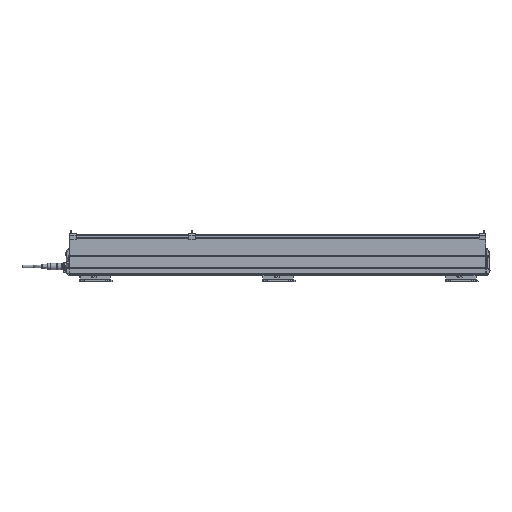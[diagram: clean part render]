
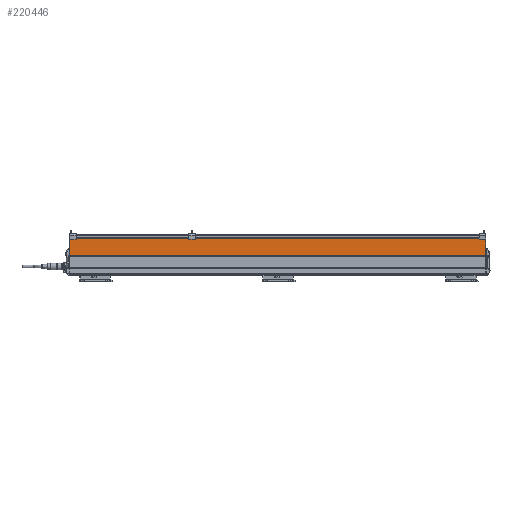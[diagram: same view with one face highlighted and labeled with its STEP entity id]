
A CAD part, front view. The second image highlights one B-rep face of the part: STEP entity #220446.
In plain terms, the highlighted planar face has unit normal (0, -1, 0) as drawn and (0, 1, 0) by its records, which use the part's own axes.
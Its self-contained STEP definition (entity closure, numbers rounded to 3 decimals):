
#75737=ORIENTED_EDGE('',*,*,#107795,.F.);
#75738=ORIENTED_EDGE('',*,*,#107760,.F.);
#75739=ORIENTED_EDGE('',*,*,#107794,.F.);
#75740=ORIENTED_EDGE('',*,*,#107699,.F.);
#92473=VECTOR('',#124377,1.);
#92500=VECTOR('',#124478,1.);
#92530=VECTOR('',#124572,1.);
#92531=VECTOR('',#124575,1.);
#97310=LINE('',#141753,#92473);
#97337=LINE('',#141876,#92500);
#97367=LINE('',#141942,#92530);
#97368=LINE('',#141944,#92531);
#102158=VERTEX_POINT('',#141750);
#102159=VERTEX_POINT('',#141752);
#102217=VERTEX_POINT('',#141873);
#102218=VERTEX_POINT('',#141875);
#107699=EDGE_CURVE('',#102158,#102159,#97310,.T.);
#107760=EDGE_CURVE('',#102217,#102218,#97337,.T.);
#107794=EDGE_CURVE('',#102159,#102217,#97367,.T.);
#107795=EDGE_CURVE('',#102218,#102158,#97368,.T.);
#116194=EDGE_LOOP('',(#75737,#75738,#75739,#75740));
#120186=FACE_BOUND('',#116194,.T.);
#124377=DIRECTION('',(36.287,0.,0.));
#124478=DIRECTION('',(-36.287,0.,0.));
#124572=DIRECTION('',(0.,0.,910.));
#124573=DIRECTION('',(0.,1.,0.));
#124574=DIRECTION('',(1.,0.,0.));
#124575=DIRECTION('',(0.,0.,-910.));
#141750=CARTESIAN_POINT('',(-29.322,15.,-785.));
#141752=CARTESIAN_POINT('',(6.965,15.,-785.));
#141753=CARTESIAN_POINT('',(-29.322,15.,-785.));
#141873=CARTESIAN_POINT('',(6.965,15.,125.));
#141875=CARTESIAN_POINT('',(-29.322,15.,125.));
#141876=CARTESIAN_POINT('',(6.965,15.,125.));
#141942=CARTESIAN_POINT('',(6.965,15.,-785.));
#141943=CARTESIAN_POINT('',(-29.322,15.,125.));
#141944=CARTESIAN_POINT('',(-29.322,15.,125.));
#212686=AXIS2_PLACEMENT_3D('',#141943,#124573,#124574);
#218835=PLANE('',#212686);
#220446=ADVANCED_FACE('',(#120186),#218835,.T.);
